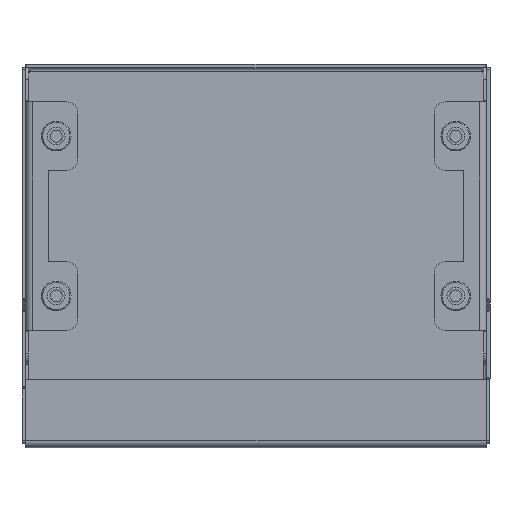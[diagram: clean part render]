
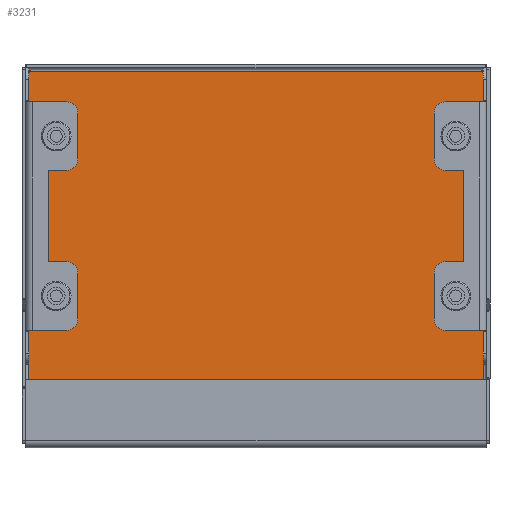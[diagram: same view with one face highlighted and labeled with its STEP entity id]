
A CAD part, front view. The second image highlights one B-rep face of the part: STEP entity #3231.
In plain terms, the highlighted planar face has unit normal (0, -1, 0).
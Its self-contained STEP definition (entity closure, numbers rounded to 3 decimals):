
#111 = EDGE_CURVE ( 'NONE', #10138, #3045, #4761, .T. ) ;
#159 = VERTEX_POINT ( 'NONE', #4641 ) ;
#358 = DIRECTION ( 'NONE',  ( 0., 0., -1. ) ) ;
#667 = AXIS2_PLACEMENT_3D ( 'NONE', #4704, #4808, #8924 ) ;
#725 = EDGE_CURVE ( 'NONE', #9170, #1135, #10356, .T. ) ;
#878 = AXIS2_PLACEMENT_3D ( 'NONE', #6455, #3942, #9090 ) ;
#1005 = ORIENTED_EDGE ( 'NONE', *, *, #6202, .T. ) ;
#1135 = VERTEX_POINT ( 'NONE', #5911 ) ;
#1539 = LINE ( 'NONE', #3254, #7712 ) ;
#1657 = CARTESIAN_POINT ( 'NONE',  ( -99.5, -1.5, -71.757 ) ) ;
#1687 = VERTEX_POINT ( 'NONE', #2765 ) ;
#1949 = CIRCLE ( 'NONE', #9322, 0.75 ) ;
#1959 = DIRECTION ( 'NONE',  ( 0., -1., 0. ) ) ;
#2004 = CARTESIAN_POINT ( 'NONE',  ( 99.5, -1.5, 68.5 ) ) ;
#2306 = ORIENTED_EDGE ( 'NONE', *, *, #725, .F. ) ;
#2431 = DIRECTION ( 'NONE',  ( 0., 1., 0. ) ) ;
#2441 = VERTEX_POINT ( 'NONE', #9656 ) ;
#2738 = DIRECTION ( 'NONE',  ( 1., 0., 0. ) ) ;
#2765 = CARTESIAN_POINT ( 'NONE',  ( -99.3, -1.5, -70.257 ) ) ;
#2844 = DIRECTION ( 'NONE',  ( 0.707, 0., -0.707 ) ) ;
#2895 = CARTESIAN_POINT ( 'NONE',  ( -99.63, -1.5, -69.527 ) ) ;
#2918 = VECTOR ( 'NONE', #8041, 1000. ) ;
#3015 = CARTESIAN_POINT ( 'NONE',  ( 99.5, -1.5, 0. ) ) ;
#3045 = VERTEX_POINT ( 'NONE', #6657 ) ;
#3163 = VERTEX_POINT ( 'NONE', #5367 ) ;
#3231 = ADVANCED_FACE ( 'NONE', ( #5644 ), #4823, .F. ) ;
#3254 = CARTESIAN_POINT ( 'NONE',  ( 102.5, -1.5, -70.257 ) ) ;
#3308 = DIRECTION ( 'NONE',  ( -1., 0., 0. ) ) ;
#3391 = EDGE_CURVE ( 'NONE', #4746, #2441, #1949, .T. ) ;
#3508 = CIRCLE ( 'NONE', #9107, 0.6 ) ;
#3538 = ORIENTED_EDGE ( 'NONE', *, *, #111, .T. ) ;
#3631 = EDGE_CURVE ( 'NONE', #1135, #5108, #6651, .T. ) ;
#3841 = CIRCLE ( 'NONE', #667, 0.6 ) ;
#3942 = DIRECTION ( 'NONE',  ( 0., -1., 0. ) ) ;
#4104 = ORIENTED_EDGE ( 'NONE', *, *, #3391, .F. ) ;
#4323 = VERTEX_POINT ( 'NONE', #8677 ) ;
#4368 = CARTESIAN_POINT ( 'NONE',  ( 102.5, -1.5, 68.5 ) ) ;
#4473 = DIRECTION ( 'NONE',  ( 1., 0., 0. ) ) ;
#4566 = CARTESIAN_POINT ( 'NONE',  ( 99.5, -1.5, 67.925 ) ) ;
#4601 = EDGE_CURVE ( 'NONE', #4323, #3163, #10169, .T. ) ;
#4618 = EDGE_CURVE ( 'NONE', #159, #3163, #3508, .T. ) ;
#4641 = CARTESIAN_POINT ( 'NONE',  ( -98.925, -1.5, 68.5 ) ) ;
#4704 = CARTESIAN_POINT ( 'NONE',  ( 99.524, -1.5, 68.524 ) ) ;
#4746 = VERTEX_POINT ( 'NONE', #5321 ) ;
#4761 = LINE ( 'NONE', #3015, #2918 ) ;
#4777 = ORIENTED_EDGE ( 'NONE', *, *, #10812, .T. ) ;
#4808 = DIRECTION ( 'NONE',  ( 0., 1., 0. ) ) ;
#4823 = PLANE ( 'NONE',  #7206 ) ;
#5031 = EDGE_LOOP ( 'NONE', ( #5264, #3538, #8134, #5165, #2306, #4777, #1005, #6728, #9417, #9349, #4104, #5757 ) ) ;
#5108 = VERTEX_POINT ( 'NONE', #9891 ) ;
#5115 = CARTESIAN_POINT ( 'NONE',  ( 98.925, -1.5, 68.5 ) ) ;
#5165 = ORIENTED_EDGE ( 'NONE', *, *, #3631, .F. ) ;
#5168 = EDGE_CURVE ( 'NONE', #5108, #3045, #8857, .T. ) ;
#5200 = EDGE_CURVE ( 'NONE', #2441, #4323, #8397, .T. ) ;
#5263 = AXIS2_PLACEMENT_3D ( 'NONE', #2895, #1959, #4473 ) ;
#5264 = ORIENTED_EDGE ( 'NONE', *, *, #6700, .F. ) ;
#5321 = CARTESIAN_POINT ( 'NONE',  ( -99.1, -1.5, -70.057 ) ) ;
#5367 = CARTESIAN_POINT ( 'NONE',  ( -99.5, -1.5, 67.925 ) ) ;
#5644 = FACE_OUTER_BOUND ( 'NONE', #5031, .T. ) ;
#5757 = ORIENTED_EDGE ( 'NONE', *, *, #6189, .F. ) ;
#5870 = CARTESIAN_POINT ( 'NONE',  ( -99.524, -1.5, 68.524 ) ) ;
#5911 = CARTESIAN_POINT ( 'NONE',  ( 99.5, -1.5, -68.821 ) ) ;
#6189 = EDGE_CURVE ( 'NONE', #1687, #4746, #7926, .T. ) ;
#6202 = EDGE_CURVE ( 'NONE', #10210, #159, #9637, .T. ) ;
#6302 = VECTOR ( 'NONE', #7715, 1000. ) ;
#6455 = CARTESIAN_POINT ( 'NONE',  ( 99.524, -1.5, -69.421 ) ) ;
#6628 = DIRECTION ( 'NONE',  ( 0., 0., 1. ) ) ;
#6644 = DIRECTION ( 'NONE',  ( -1., 0., 0. ) ) ;
#6651 = CIRCLE ( 'NONE', #878, 0.6 ) ;
#6657 = CARTESIAN_POINT ( 'NONE',  ( 99.5, -1.5, -70.245 ) ) ;
#6700 = EDGE_CURVE ( 'NONE', #10138, #1687, #1539, .T. ) ;
#6728 = ORIENTED_EDGE ( 'NONE', *, *, #4618, .T. ) ;
#7206 = AXIS2_PLACEMENT_3D ( 'NONE', #9886, #10713, #6628 ) ;
#7469 = DIRECTION ( 'NONE',  ( 0., 0., 1. ) ) ;
#7712 = VECTOR ( 'NONE', #3308, 1000. ) ;
#7715 = DIRECTION ( 'NONE',  ( -1., 0., 0. ) ) ;
#7765 = DIRECTION ( 'NONE',  ( 0.707, 0., 0.707 ) ) ;
#7926 = LINE ( 'NONE', #8583, #10329 ) ;
#8041 = DIRECTION ( 'NONE',  ( 0., 0., 1. ) ) ;
#8134 = ORIENTED_EDGE ( 'NONE', *, *, #5168, .F. ) ;
#8291 = CARTESIAN_POINT ( 'NONE',  ( 99.5, -1.5, -70.257 ) ) ;
#8397 = CIRCLE ( 'NONE', #5263, 0.75 ) ;
#8583 = CARTESIAN_POINT ( 'NONE',  ( -14.521, -1.5, 14.521 ) ) ;
#8677 = CARTESIAN_POINT ( 'NONE',  ( -99.5, -1.5, -68.788 ) ) ;
#8695 = VECTOR ( 'NONE', #358, 1000. ) ;
#8857 = LINE ( 'NONE', #10413, #10348 ) ;
#8924 = DIRECTION ( 'NONE',  ( -1., 0., 0. ) ) ;
#9090 = DIRECTION ( 'NONE',  ( 1., 0., 0. ) ) ;
#9107 = AXIS2_PLACEMENT_3D ( 'NONE', #5870, #2431, #6644 ) ;
#9170 = VERTEX_POINT ( 'NONE', #4566 ) ;
#9322 = AXIS2_PLACEMENT_3D ( 'NONE', #10152, #10047, #2738 ) ;
#9349 = ORIENTED_EDGE ( 'NONE', *, *, #5200, .F. ) ;
#9417 = ORIENTED_EDGE ( 'NONE', *, *, #4601, .F. ) ;
#9637 = LINE ( 'NONE', #4368, #6302 ) ;
#9656 = CARTESIAN_POINT ( 'NONE',  ( -98.88, -1.5, -69.527 ) ) ;
#9817 = VECTOR ( 'NONE', #7469, 1000. ) ;
#9886 = CARTESIAN_POINT ( 'NONE',  ( 102.5, -1.5, 71.5 ) ) ;
#9891 = CARTESIAN_POINT ( 'NONE',  ( 99.1, -1.5, -69.845 ) ) ;
#10047 = DIRECTION ( 'NONE',  ( 0., -1., 0. ) ) ;
#10138 = VERTEX_POINT ( 'NONE', #8291 ) ;
#10152 = CARTESIAN_POINT ( 'NONE',  ( -99.63, -1.5, -69.527 ) ) ;
#10169 = LINE ( 'NONE', #1657, #9817 ) ;
#10210 = VERTEX_POINT ( 'NONE', #5115 ) ;
#10329 = VECTOR ( 'NONE', #7765, 1000. ) ;
#10348 = VECTOR ( 'NONE', #2844, 1000. ) ;
#10356 = LINE ( 'NONE', #2004, #8695 ) ;
#10413 = CARTESIAN_POINT ( 'NONE',  ( 14.627, -1.5, 14.627 ) ) ;
#10713 = DIRECTION ( 'NONE',  ( 0., 1., 0. ) ) ;
#10812 = EDGE_CURVE ( 'NONE', #9170, #10210, #3841, .T. ) ;
